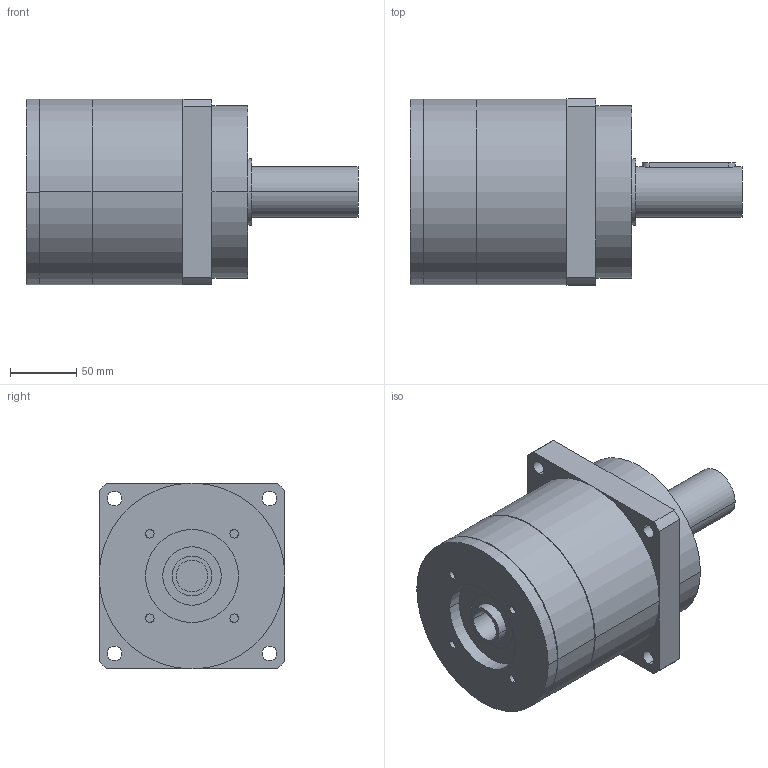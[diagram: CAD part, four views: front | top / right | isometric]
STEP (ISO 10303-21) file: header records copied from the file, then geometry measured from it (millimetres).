
FILE_DESCRIPTION(('CoCreate Modeling STEP Export'),'2;1');
FILE_NAME('GPR150_ig-3-4-5-7_38_B5_24_P15.stp','2014-08-19T16:42:32',(''),(''),'CoCreate Modeling STEP processor for AP214 (Solid Model)','CoCreate Modeling 16.00C 25-Feb-2009 (C) Parametric Technology GmbH','');
FILE_SCHEMA(('AUTOMOTIVE_DESIGN { 1 0 10303 214 1 1 1 1 }'));
Length unit declared in the file: millimetre
Products named in the file (2): GPR150_ig-3-4-5-7_38_B5_24_P15
Assembly tree (1 placements, depth 2):
  GPR150_ig-3-4-5-7_38_B5_24_P15
    GPR150_ig-3-4-5-7_38_B5_24_P15
Bounding box: 250 x 140 x 140 mm (x, y, z)
Volume: 2633819.4 mm3; surface area: 136213.5 mm2
Topology: 1 solids, 1 shells, 88 faces, 223 edges, 153 vertices
Faces by surface type: cylinder 52, plane 30, cone 6
Entity records: 2322 total; most frequent: ORIENTED_EDGE 442, CARTESIAN_POINT 425, DIRECTION 320, EDGE_CURVE 221, VERTEX_POINT 153, AXIS2_PLACEMENT_3D 120, EDGE_LOOP 114, FACE_OUTER_BOUND 88
